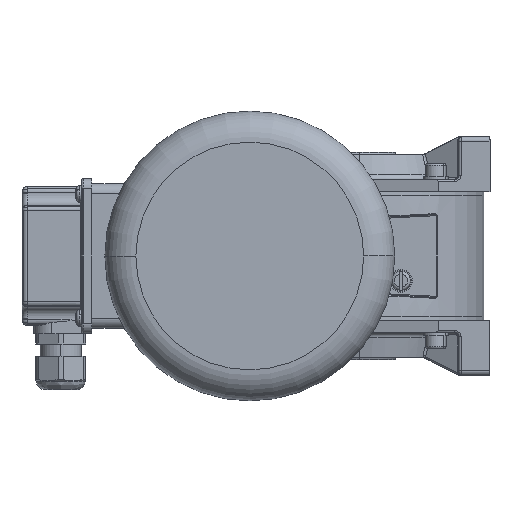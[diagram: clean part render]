
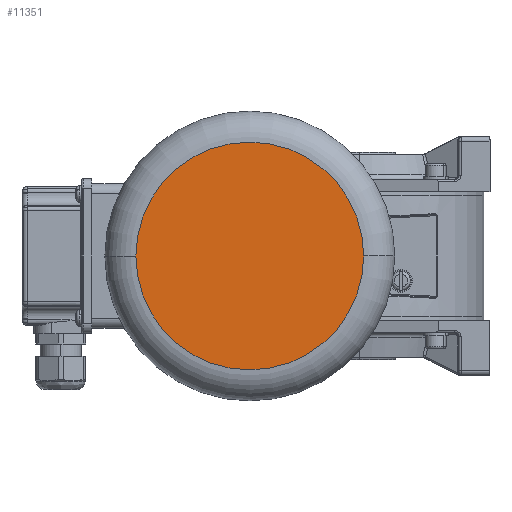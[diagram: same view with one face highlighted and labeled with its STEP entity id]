
A CAD part, left-side view. The second image highlights one B-rep face of the part: STEP entity #11351.
In plain terms, the highlighted planar face has unit normal (-1, 0, 0).
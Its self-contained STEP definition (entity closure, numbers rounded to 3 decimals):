
#2331 = DIRECTION ( 'NONE',  ( 0., 0., 1. ) ) ;
#3097 = PLANE ( 'NONE',  #21666 ) ;
#4645 = EDGE_CURVE ( 'NONE', #5675, #13065, #18643, .T. ) ;
#4767 = ORIENTED_EDGE ( 'NONE', *, *, #4645, .T. ) ;
#5675 = VERTEX_POINT ( 'NONE', #16371 ) ;
#7191 = CARTESIAN_POINT ( 'NONE',  ( 0., 0., 0. ) ) ;
#9326 = DIRECTION ( 'NONE',  ( 0., 0., 1. ) ) ;
#9621 = CIRCLE ( 'NONE', #28260, 55. ) ;
#11351 = ADVANCED_FACE ( 'NONE', ( #18444 ), #3097, .F. ) ;
#13065 = VERTEX_POINT ( 'NONE', #18245 ) ;
#13299 = DIRECTION ( 'NONE',  ( 0., 0., -1. ) ) ;
#16371 = CARTESIAN_POINT ( 'NONE',  ( 0., 0., 55. ) ) ;
#17999 = EDGE_CURVE ( 'NONE', #13065, #5675, #9621, .T. ) ;
#18245 = CARTESIAN_POINT ( 'NONE',  ( 0., 0., -55. ) ) ;
#18444 = FACE_OUTER_BOUND ( 'NONE', #20584, .T. ) ;
#18643 = CIRCLE ( 'NONE', #29310, 55. ) ;
#20584 = EDGE_LOOP ( 'NONE', ( #4767, #21421 ) ) ;
#21421 = ORIENTED_EDGE ( 'NONE', *, *, #17999, .T. ) ;
#21666 = AXIS2_PLACEMENT_3D ( 'NONE', #30950, #28952, #13299 ) ;
#24841 = DIRECTION ( 'NONE',  ( -1., 0., 0. ) ) ;
#25159 = CARTESIAN_POINT ( 'NONE',  ( 0., 0., 0. ) ) ;
#25213 = DIRECTION ( 'NONE',  ( -1., 0., 0. ) ) ;
#28260 = AXIS2_PLACEMENT_3D ( 'NONE', #25159, #24841, #9326 ) ;
#28952 = DIRECTION ( 'NONE',  ( 1., 0., 0. ) ) ;
#29310 = AXIS2_PLACEMENT_3D ( 'NONE', #7191, #25213, #2331 ) ;
#30950 = CARTESIAN_POINT ( 'NONE',  ( 0., 0., 0. ) ) ;
